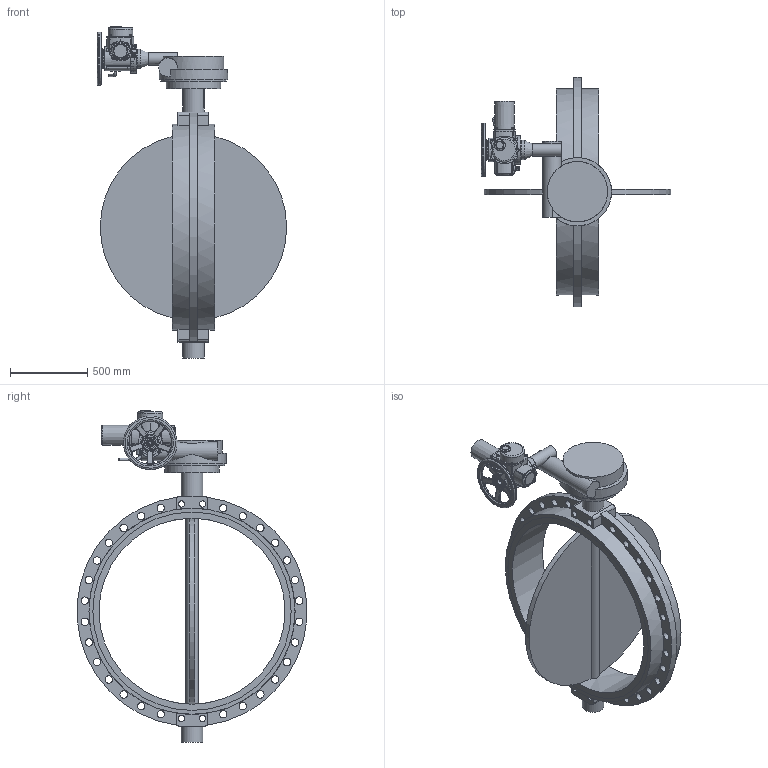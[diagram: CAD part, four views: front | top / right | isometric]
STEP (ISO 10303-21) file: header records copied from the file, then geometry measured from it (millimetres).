
FILE_DESCRIPTION(('STEP AP203'), '1');
FILE_NAME('Çàòâîð 017WDN1200 ðåäóêòîð+ÝÏ ÌÒ903Ì.20', '', ('UNSPECIFIED'), ('UNSPECIFIED'), 'ASCON STEP Converter 1.6', 'ASCON Math Kernel', '');
FILE_SCHEMA(('CONFIG_CONTROL_DESIGN'));
Length unit declared in the file: millimetre
Bounding box: 1221.97 x 1479.65 x 2142.43 mm (x, y, z)
Volume: 178394410.5 mm3; surface area: 7731892.3 mm2
Topology: 2 solids, 2 shells, 2512 faces, 6662 edges, 4210 vertices
Faces by surface type: plane 1124, cylinder 1078, cone 209, bspline 50, torus 47, sphere 4
Full cylindrical faces by diameter (mm): 2.5 x2, 4.5 x4, 5 x6, 6 x23, 6.5 x6, 8 x25, 8.376 x11, 8.5 x13, 9 x4, 10 x10, 13 x17, 13.835 x4, 16 x10, 17 x2, 17.5 x8, 18 x6, 18.5 x1, 20 x1, 22 x8, 22.835 x1, 23.917 x1, 25 x2, 28 x2, 40.129 x4, 41.2 x1, 42 x1, 46 x2, 48 x28, 55 x1, 60 x4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
Entity records: 116465 total; most frequent: CARTESIAN_POINT 35097, DIRECTION 13196, ORIENTED_EDGE 12388, EDGE_CURVE 6194, AXIS2_PLACEMENT_3D 5318, VERTEX_POINT 4171, EDGE_LOOP 3165, CIRCLE 2857
